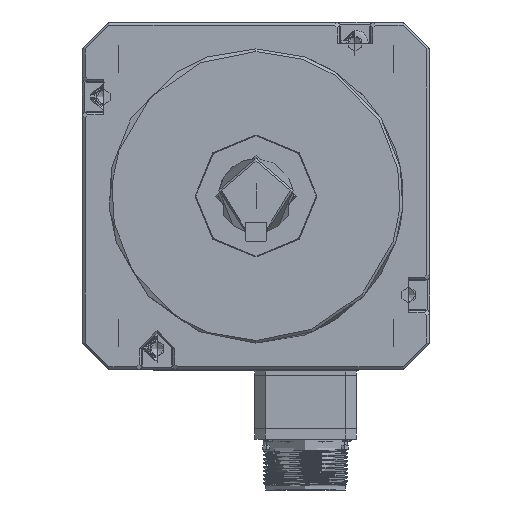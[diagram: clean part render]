
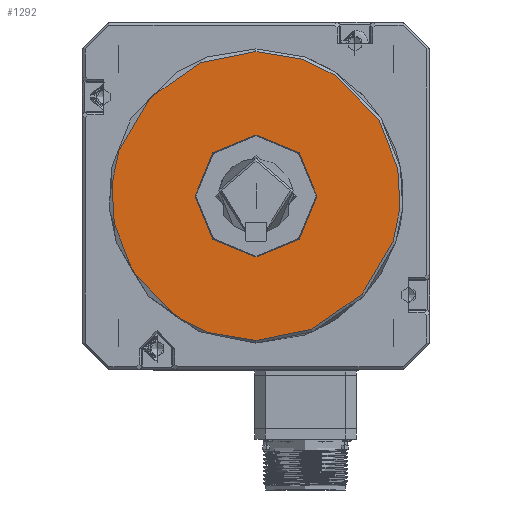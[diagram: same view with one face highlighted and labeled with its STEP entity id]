
A CAD part, left-side view. The second image highlights one B-rep face of the part: STEP entity #1292.
In plain terms, the highlighted planar face has unit normal (1, 0, 0).
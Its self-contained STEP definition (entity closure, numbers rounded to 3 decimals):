
#558=FACE_BOUND('',#9811,.T.);
#1292=ADVANCED_FACE('',(#5541,#558),#65772,.T.);
#5541=FACE_OUTER_BOUND('',#9810,.T.);
#9810=EDGE_LOOP('',(#15440,#15441));
#9811=EDGE_LOOP('',(#15442,#15443));
#15440=ORIENTED_EDGE('',*,*,#36992,.T.);
#15441=ORIENTED_EDGE('',*,*,#37529,.T.);
#15442=ORIENTED_EDGE('',*,*,#37057,.F.);
#15443=ORIENTED_EDGE('',*,*,#37231,.T.);
#36992=EDGE_CURVE('',#59248,#59249,#55426,.T.);
#37057=EDGE_CURVE('',#59313,#59312,#55457,.T.);
#37231=EDGE_CURVE('',#59313,#59312,#55538,.T.);
#37529=EDGE_CURVE('',#59249,#59248,#55642,.T.);
#55426=(
BOUNDED_CURVE()
B_SPLINE_CURVE(2,(#100645,#100646,#100647,#100648,#100649),
 .UNSPECIFIED.,.F.,.F.)
B_SPLINE_CURVE_WITH_KNOTS((3,2,3),(0.,84.823,169.646),
 .UNSPECIFIED.)
CURVE()
GEOMETRIC_REPRESENTATION_ITEM()
RATIONAL_B_SPLINE_CURVE((1.,0.707,1.,0.707,1.))
REPRESENTATION_ITEM('')
);
#55457=(
BOUNDED_CURVE()
B_SPLINE_CURVE(2,(#100856,#100857,#100858,#100859,#100860),
 .UNSPECIFIED.,.F.,.F.)
B_SPLINE_CURVE_WITH_KNOTS((3,2,3),(-71.593,-35.796,
0.),.UNSPECIFIED.)
CURVE()
GEOMETRIC_REPRESENTATION_ITEM()
RATIONAL_B_SPLINE_CURVE((1.,0.707,1.,0.707,1.))
REPRESENTATION_ITEM('')
);
#55538=(
BOUNDED_CURVE()
B_SPLINE_CURVE(2,(#101529,#101530,#101531,#101532,#101533),
 .UNSPECIFIED.,.F.,.F.)
B_SPLINE_CURVE_WITH_KNOTS((3,2,3),(0.,35.796,71.593),
 .UNSPECIFIED.)
CURVE()
GEOMETRIC_REPRESENTATION_ITEM()
RATIONAL_B_SPLINE_CURVE((1.,0.707,1.,0.707,1.))
REPRESENTATION_ITEM('')
);
#55642=(
BOUNDED_CURVE()
B_SPLINE_CURVE(2,(#102529,#102530,#102531,#102532,#102533),
 .UNSPECIFIED.,.F.,.F.)
B_SPLINE_CURVE_WITH_KNOTS((3,2,3),(0.,84.823,169.646),
 .UNSPECIFIED.)
CURVE()
GEOMETRIC_REPRESENTATION_ITEM()
RATIONAL_B_SPLINE_CURVE((1.,0.707,1.,0.707,1.))
REPRESENTATION_ITEM('')
);
#59248=VERTEX_POINT('',#96833);
#59249=VERTEX_POINT('',#96834);
#59312=VERTEX_POINT('',#96897);
#59313=VERTEX_POINT('',#96898);
#65772=PLANE('',#69544);
#69544=AXIS2_PLACEMENT_3D('',#79417,#71128,$);
#71128=DIRECTION('',(1.,0.,0.));
#79417=CARTESIAN_POINT('',(57.,-64.8,64.8));
#96833=CARTESIAN_POINT('',(57.,0.,-54.));
#96834=CARTESIAN_POINT('',(57.,0.,54.));
#96897=CARTESIAN_POINT('',(57.,0.,-22.789));
#96898=CARTESIAN_POINT('',(57.,0.,22.789));
#100645=CARTESIAN_POINT('',(57.,0.,-54.));
#100646=CARTESIAN_POINT('',(57.,54.,-54.));
#100647=CARTESIAN_POINT('',(57.,54.,0.));
#100648=CARTESIAN_POINT('',(57.,54.,54.));
#100649=CARTESIAN_POINT('',(57.,0.,54.));
#100856=CARTESIAN_POINT('',(57.,0.,22.789));
#100857=CARTESIAN_POINT('',(57.,-22.789,22.789));
#100858=CARTESIAN_POINT('',(57.,-22.789,0.));
#100859=CARTESIAN_POINT('',(57.,-22.789,-22.789));
#100860=CARTESIAN_POINT('',(57.,0.,-22.789));
#101529=CARTESIAN_POINT('',(57.,0.,22.789));
#101530=CARTESIAN_POINT('',(57.,22.789,22.789));
#101531=CARTESIAN_POINT('',(57.,22.789,0.));
#101532=CARTESIAN_POINT('',(57.,22.789,-22.789));
#101533=CARTESIAN_POINT('',(57.,0.,-22.789));
#102529=CARTESIAN_POINT('',(57.,0.,54.));
#102530=CARTESIAN_POINT('',(57.,-54.,54.));
#102531=CARTESIAN_POINT('',(57.,-54.,0.));
#102532=CARTESIAN_POINT('',(57.,-54.,-54.));
#102533=CARTESIAN_POINT('',(57.,0.,-54.));
